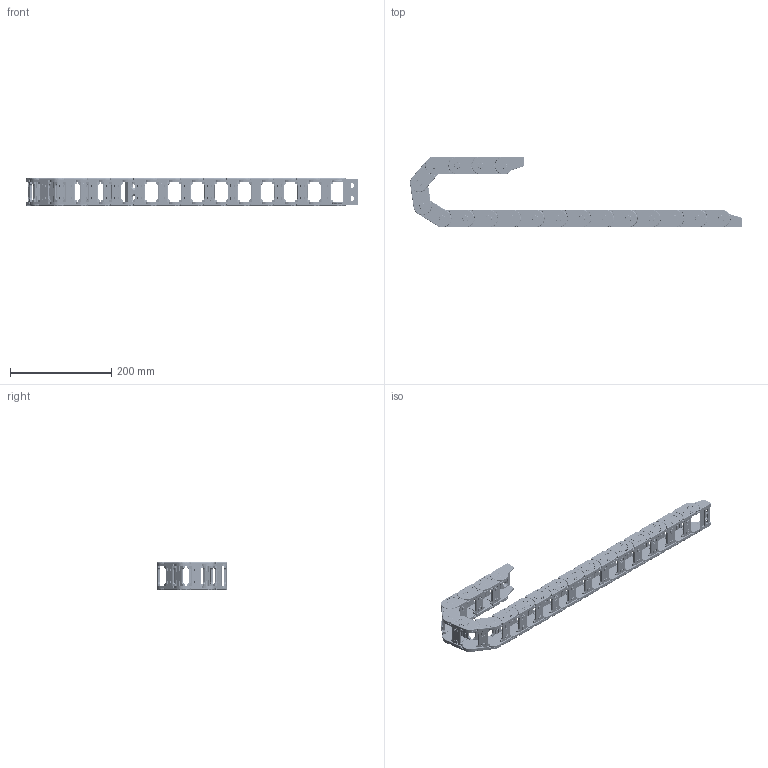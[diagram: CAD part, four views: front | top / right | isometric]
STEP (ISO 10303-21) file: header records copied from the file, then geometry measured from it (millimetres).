
FILE_DESCRIPTION (( 'STEP AP214' ), '1' );
FILE_NAME ('J25Q.2.38S.STEP', '2019-01-09T03:20:45', ( 'Sky123.Org' ), ( 'Sky123.Org' ), 'SwSTEP 2.0', 'SolidWorks 2017', '' );
FILE_SCHEMA (( 'AUTOMOTIVE_DESIGN' ));
Length unit declared in the file: millimetre
Products named in the file (7): J25Q.2.38S; G25-R55翋极1-楷俋; G25-R55翋极2-楷俋; G25X38-結え-3D; 5-G25X38-1; G25X38-XJT-NF; G25X38-XJT-WF
Assembly tree (24 placements, depth 3):
  J25Q.2.38S
    5-G25X38-1  x18
      G25-R55翋极1-楷俋
      G25-R55翋极2-楷俋
      G25X38-結え-3D
    G25X38-XJT-NF
    G25X38-XJT-WF
Bounding box: 656.29 x 139.76 x 54.6 mm (x, y, z)
Volume: 620038.3 mm3; surface area: 365175.4 mm2
Topology: 74 solids, 74 shells, 17649 faces, 48395 edges, 31728 vertices
Faces by surface type: plane 8974, bspline 5130, cylinder 3533, cone 12
Entity records: 35709 total; most frequent: CARTESIAN_POINT 15282, ORIENTED_EDGE 4552, DIRECTION 3627, EDGE_CURVE 2276, VERTEX_POINT 1473, VECTOR 1391, LINE 1391, AXIS2_PLACEMENT_3D 1118
